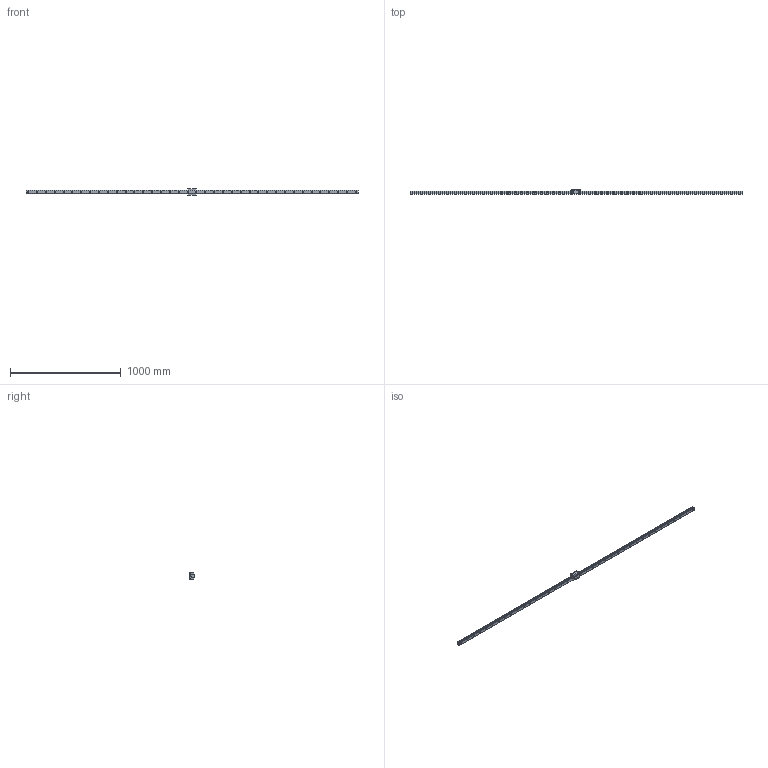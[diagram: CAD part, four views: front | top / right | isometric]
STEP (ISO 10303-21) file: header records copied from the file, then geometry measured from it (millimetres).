
FILE_DESCRIPTION(/* description */ ('STEP AP214'),/* implementation_level */ '2;1');
FILE_NAME(/* name */ 'HDR30SV1SS-3000L_G20_0_B-M6F_1463-25_0_0_01',/* time_stamp */ '2023-06-30T12:58:03+02:00',/* author */ ('License CC BY-ND 4.0'),/* organization */ ('CADENAS'),/* preprocessor_version */ 'ST-DEVELOPER v19.3',/* originating_system */ 'PARTsolutions',/* authorisation */ ' ');
FILE_SCHEMA (('AUTOMOTIVE_DESIGN {1 0 10303 214 3 1 1}'));
Length unit declared in the file: millimetre
Products named in the file (4): HDR30SV1SS-3000L_G20_0_B-M6F_1463-25_0_0_01; hsr_ftht_B-M6F_grease_nipple_joint; HDR30SVSSB-M6F1 Slider; HDR30SV1300020 Rail
Assembly tree (3 placements, depth 2):
  HDR30SV1SS-3000L_G20_0_B-M6F_1463-25_0_0_01
    hsr_ftht_B-M6F_grease_nipple_joint
    HDR30SVSSB-M6F1 Slider
    HDR30SV1300020 Rail
Bounding box: 3000 x 42 x 60 mm (x, y, z)
Volume: 1904661.6 mm3; surface area: 397550.7 mm2
Topology: 3 solids, 3 shells, 323 faces, 794 edges, 520 vertices
Faces by surface type: plane 166, cylinder 133, cone 19, sphere 3, torus 2
Full cylindrical faces by diameter (mm): 4.917 x2, 5.2 x4, 6 x1, 6.647 x3, 8 x1, 9 x38, 14 x38
Entity records: 9277 total; most frequent: CARTESIAN_POINT 1618, DIRECTION 1600, ORIENTED_EDGE 1356, EDGE_CURVE 678, AXIS2_PLACEMENT_3D 619, FACE_BOUND 553, EDGE_LOOP 549, VERTEX_POINT 513
